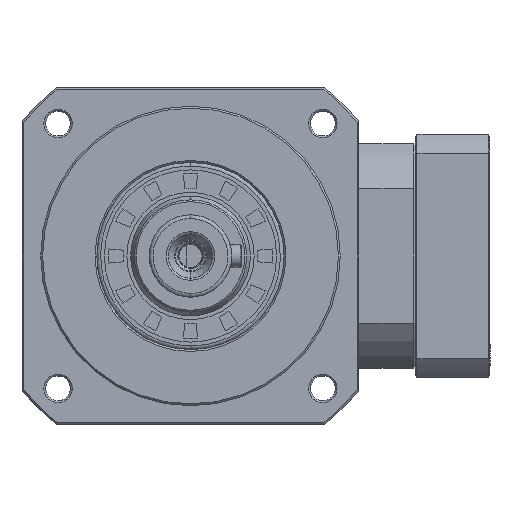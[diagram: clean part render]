
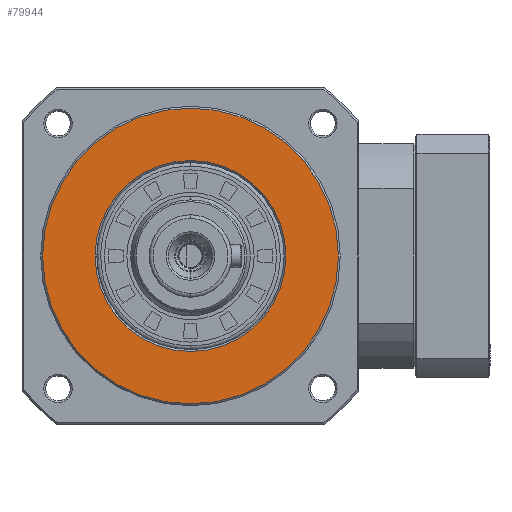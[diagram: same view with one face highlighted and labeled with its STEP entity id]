
A CAD part, left-side view. The second image highlights one B-rep face of the part: STEP entity #79944.
In plain terms, the highlighted planar face has unit normal (-1, 0, 0).
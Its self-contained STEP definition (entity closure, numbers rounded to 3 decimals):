
#2897 = CARTESIAN_POINT ( 'NONE',  ( 0., 0., 39.5 ) ) ;
#2967 = EDGE_CURVE ( 'NONE', #38007, #49072, #59087, .T. ) ;
#3470 = CARTESIAN_POINT ( 'NONE',  ( 0., 0., 0. ) ) ;
#9078 = AXIS2_PLACEMENT_3D ( 'NONE', #3470, #57780, #88954 ) ;
#9528 = AXIS2_PLACEMENT_3D ( 'NONE', #54638, #84792, #77423 ) ;
#9617 = DIRECTION ( 'NONE',  ( 0., 0., -1. ) ) ;
#9731 = ORIENTED_EDGE ( 'NONE', *, *, #78106, .F. ) ;
#11968 = EDGE_CURVE ( 'NONE', #49072, #38007, #95437, .T. ) ;
#17119 = CARTESIAN_POINT ( 'NONE',  ( 0., -39.974, 39.974 ) ) ;
#24762 = CIRCLE ( 'NONE', #94279, 39.5 ) ;
#27555 = VERTEX_POINT ( 'NONE', #2897 ) ;
#29747 = DIRECTION ( 'NONE',  ( 1., 0., 0. ) ) ;
#30232 = ORIENTED_EDGE ( 'NONE', *, *, #11968, .T. ) ;
#30413 = DIRECTION ( 'NONE',  ( 0., 0., 1. ) ) ;
#31206 = ORIENTED_EDGE ( 'NONE', *, *, #95857, .F. ) ;
#34420 = DIRECTION ( 'NONE',  ( 1., 0., 0. ) ) ;
#35439 = DIRECTION ( 'NONE',  ( 0., 0., -1. ) ) ;
#38007 = VERTEX_POINT ( 'NONE', #71598 ) ;
#43035 = VERTEX_POINT ( 'NONE', #81209 ) ;
#43237 = CARTESIAN_POINT ( 'NONE',  ( 0., 0., 0. ) ) ;
#48571 = DIRECTION ( 'NONE',  ( 1., 0., 0. ) ) ;
#49072 = VERTEX_POINT ( 'NONE', #97569 ) ;
#54638 = CARTESIAN_POINT ( 'NONE',  ( 0., 0., 0. ) ) ;
#55464 = EDGE_LOOP ( 'NONE', ( #9731, #31206 ) ) ;
#55730 = PLANE ( 'NONE',  #78496 ) ;
#57780 = DIRECTION ( 'NONE',  ( 1., 0., 0. ) ) ;
#59087 = CIRCLE ( 'NONE', #73047, 25.5 ) ;
#60670 = CARTESIAN_POINT ( 'NONE',  ( 0., 0., 0. ) ) ;
#64604 = FACE_OUTER_BOUND ( 'NONE', #55464, .T. ) ;
#71598 = CARTESIAN_POINT ( 'NONE',  ( 0., 0., 25.5 ) ) ;
#72084 = ORIENTED_EDGE ( 'NONE', *, *, #2967, .T. ) ;
#73047 = AXIS2_PLACEMENT_3D ( 'NONE', #60670, #29747, #30413 ) ;
#76511 = CIRCLE ( 'NONE', #9528, 39.5 ) ;
#76994 = EDGE_LOOP ( 'NONE', ( #72084, #30232 ) ) ;
#77423 = DIRECTION ( 'NONE',  ( 0., 0., -1. ) ) ;
#78106 = EDGE_CURVE ( 'NONE', #43035, #27555, #76511, .T. ) ;
#78496 = AXIS2_PLACEMENT_3D ( 'NONE', #17119, #48571, #9617 ) ;
#79944 = ADVANCED_FACE ( 'NONE', ( #82731, #64604 ), #55730, .F. ) ;
#81209 = CARTESIAN_POINT ( 'NONE',  ( 0., 0., -39.5 ) ) ;
#82731 = FACE_BOUND ( 'NONE', #76994, .T. ) ;
#84792 = DIRECTION ( 'NONE',  ( 1., 0., 0. ) ) ;
#88954 = DIRECTION ( 'NONE',  ( 0., 0., 1. ) ) ;
#94279 = AXIS2_PLACEMENT_3D ( 'NONE', #43237, #34420, #35439 ) ;
#95437 = CIRCLE ( 'NONE', #9078, 25.5 ) ;
#95857 = EDGE_CURVE ( 'NONE', #27555, #43035, #24762, .T. ) ;
#97569 = CARTESIAN_POINT ( 'NONE',  ( 0., 0., -25.5 ) ) ;
